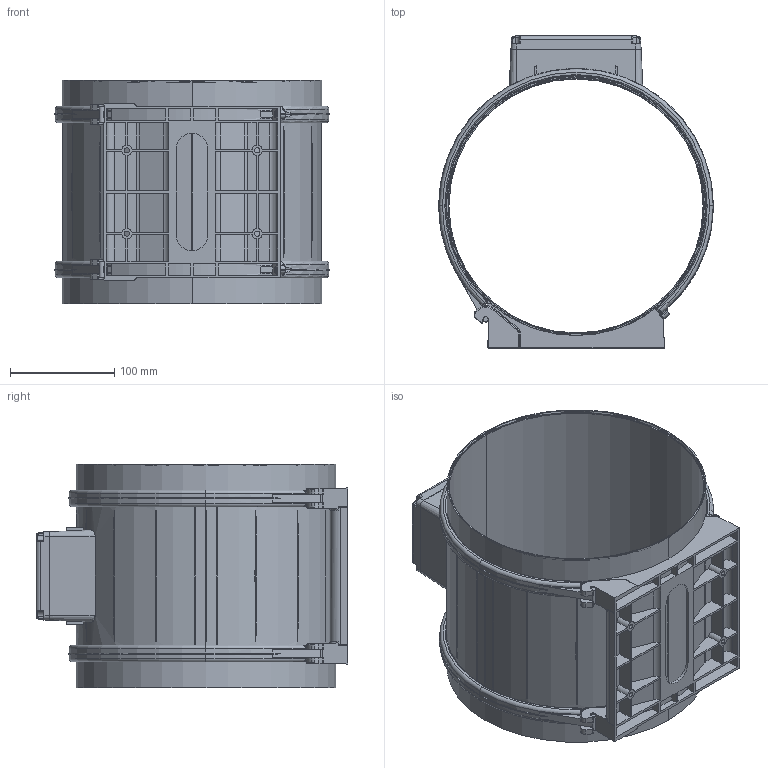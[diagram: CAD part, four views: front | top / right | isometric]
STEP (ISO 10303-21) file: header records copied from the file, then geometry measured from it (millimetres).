
FILE_DESCRIPTION (( 'STEP AP203' ), '1' );
FILE_NAME ('127317-03_EM250E2M01.STEP', '2014-08-27T12:32:27', ( '' ), ( '' ), 'SwSTEP 2.0', 'SolidWorks 2012', '' );
FILE_SCHEMA (( 'CONFIG_CONTROL_DESIGN' ));
Length unit declared in the file: millimetre
Products named in the file (1): 127317-03_EM250E2M01
Bounding box: 263.35 x 299.35 x 215 mm (x, y, z)
Surface area: 509867.3 mm2 (no closed solid volume)
Topology: 0 solids, 10 shells, 756 faces, 2942 edges, 2125 vertices
Faces by surface type: plane 259, cylinder 258, bspline 119, torus 78, cone 42
Entity records: 37869 total; most frequent: CARTESIAN_POINT 15123, ORIENTED_EDGE 4572, DIRECTION 4287, EDGE_CURVE 2938, VERTEX_POINT 2125, VECTOR 1471, LINE 1471, AXIS2_PLACEMENT_3D 1408
